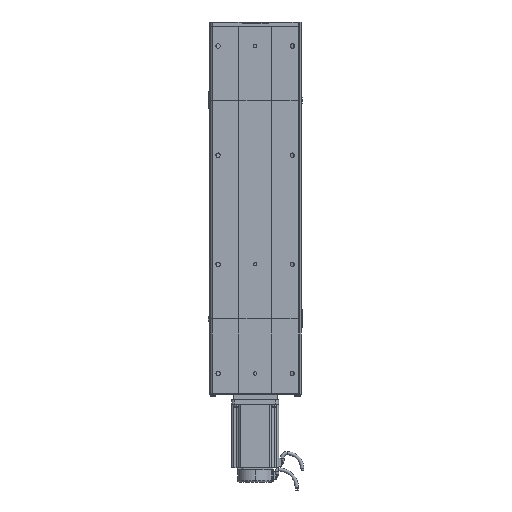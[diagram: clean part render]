
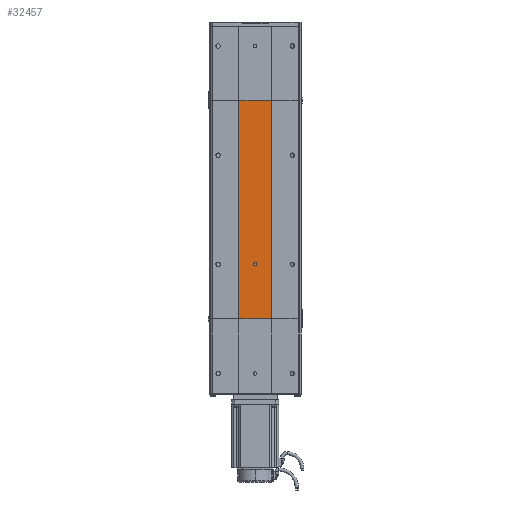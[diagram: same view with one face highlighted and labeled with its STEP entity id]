
A CAD part, front view. The second image highlights one B-rep face of the part: STEP entity #32457.
In plain terms, the highlighted planar face has unit normal (0, -1, 0).
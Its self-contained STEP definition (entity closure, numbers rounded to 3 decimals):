
#20499 = CARTESIAN_POINT ( 'NONE',  ( 0., -32.5, 103. ) ) ;
#21082 = DIRECTION ( 'NONE',  ( 0., 0., -1. ) ) ;
#21083 = DIRECTION ( 'NONE',  ( 0., -1., 0. ) ) ;
#21084 = CARTESIAN_POINT ( 'NONE',  ( 0., -32.5, 100. ) ) ;
#21085 = AXIS2_PLACEMENT_3D ( 'NONE', #21084, #21083, #21082 ) ;
#21087 = CIRCLE ( 'NONE', #21085, 3. ) ;
#21449 = CARTESIAN_POINT ( 'NONE',  ( 0., -32.5, 97. ) ) ;
#30448 = VERTEX_POINT ( 'NONE', #20499 ) ;
#30932 = EDGE_CURVE ( 'NONE', #30448, #31181, #21087, .T. ) ;
#31181 = VERTEX_POINT ( 'NONE', #21449 ) ;
#31906 = EDGE_CURVE ( 'NONE', #32036, #32171, #54273, .T. ) ;
#32036 = VERTEX_POINT ( 'NONE', #54685 ) ;
#32171 = VERTEX_POINT ( 'NONE', #55031 ) ;
#32447 = VERTEX_POINT ( 'NONE', #55926 ) ;
#32456 = EDGE_LOOP ( 'NONE', ( #32931, #32459, #33183, #33003 ) ) ;
#32457 = ADVANCED_FACE ( 'NONE', ( #55810, #55803 ), #55807, .F. ) ;
#32459 = ORIENTED_EDGE ( 'NONE', *, *, #33001, .F. ) ;
#32771 = EDGE_CURVE ( 'NONE', #32773, #32447, #56149, .T. ) ;
#32773 = VERTEX_POINT ( 'NONE', #56145 ) ;
#32931 = ORIENTED_EDGE ( 'NONE', *, *, #31906, .T. ) ;
#32996 = EDGE_LOOP ( 'NONE', ( #33058, #33057 ) ) ;
#33001 = EDGE_CURVE ( 'NONE', #32447, #32171, #56911, .T. ) ;
#33003 = ORIENTED_EDGE ( 'NONE', *, *, #33182, .T. ) ;
#33057 = ORIENTED_EDGE ( 'NONE', *, *, #30932, .F. ) ;
#33058 = ORIENTED_EDGE ( 'NONE', *, *, #33181, .F. ) ;
#33181 = EDGE_CURVE ( 'NONE', #31181, #30448, #57913, .T. ) ;
#33182 = EDGE_CURVE ( 'NONE', #32773, #32036, #57912, .T. ) ;
#33183 = ORIENTED_EDGE ( 'NONE', *, *, #32771, .F. ) ;
#54270 = DIRECTION ( 'NONE',  ( -1., 0., 0. ) ) ;
#54271 = VECTOR ( 'NONE', #54270, 1000. ) ;
#54272 = CARTESIAN_POINT ( 'NONE',  ( -30., -32.5, 400. ) ) ;
#54273 = LINE ( 'NONE', #54272, #54271 ) ;
#54685 = CARTESIAN_POINT ( 'NONE',  ( 30., -32.5, 400. ) ) ;
#55031 = CARTESIAN_POINT ( 'NONE',  ( -30., -32.5, 400. ) ) ;
#55789 = DIRECTION ( 'NONE',  ( 0., 0., 1. ) ) ;
#55801 = CARTESIAN_POINT ( 'NONE',  ( -30., -32.5, 0. ) ) ;
#55803 = FACE_OUTER_BOUND ( 'NONE', #32456, .T. ) ;
#55807 = PLANE ( 'NONE',  #55967 ) ;
#55810 = FACE_BOUND ( 'NONE', #32996, .T. ) ;
#55926 = CARTESIAN_POINT ( 'NONE',  ( -30., -32.5, 0. ) ) ;
#55967 = AXIS2_PLACEMENT_3D ( 'NONE', #55801, #55991, #55789 ) ;
#55991 = DIRECTION ( 'NONE',  ( 0., 1., 0. ) ) ;
#56142 = DIRECTION ( 'NONE',  ( -1., 0., 0. ) ) ;
#56143 = VECTOR ( 'NONE', #56142, 1000. ) ;
#56145 = CARTESIAN_POINT ( 'NONE',  ( 30., -32.5, 0. ) ) ;
#56146 = CARTESIAN_POINT ( 'NONE',  ( -30., -32.5, 0. ) ) ;
#56149 = LINE ( 'NONE', #56146, #56143 ) ;
#56909 = CARTESIAN_POINT ( 'NONE',  ( -30., -32.5, 0. ) ) ;
#56911 = LINE ( 'NONE', #56909, #57054 ) ;
#57053 = DIRECTION ( 'NONE',  ( 0., 0., 1. ) ) ;
#57054 = VECTOR ( 'NONE', #57053, 1000. ) ;
#57911 = CARTESIAN_POINT ( 'NONE',  ( 30., -32.5, 0. ) ) ;
#57912 = LINE ( 'NONE', #57911, #57926 ) ;
#57913 = CIRCLE ( 'NONE', #58038, 3. ) ;
#57925 = DIRECTION ( 'NONE',  ( 0., 0., 1. ) ) ;
#57926 = VECTOR ( 'NONE', #57925, 1000. ) ;
#57955 = CARTESIAN_POINT ( 'NONE',  ( 0., -32.5, 100. ) ) ;
#58035 = DIRECTION ( 'NONE',  ( 0., 0., -1. ) ) ;
#58037 = DIRECTION ( 'NONE',  ( 0., -1., 0. ) ) ;
#58038 = AXIS2_PLACEMENT_3D ( 'NONE', #57955, #58037, #58035 ) ;
